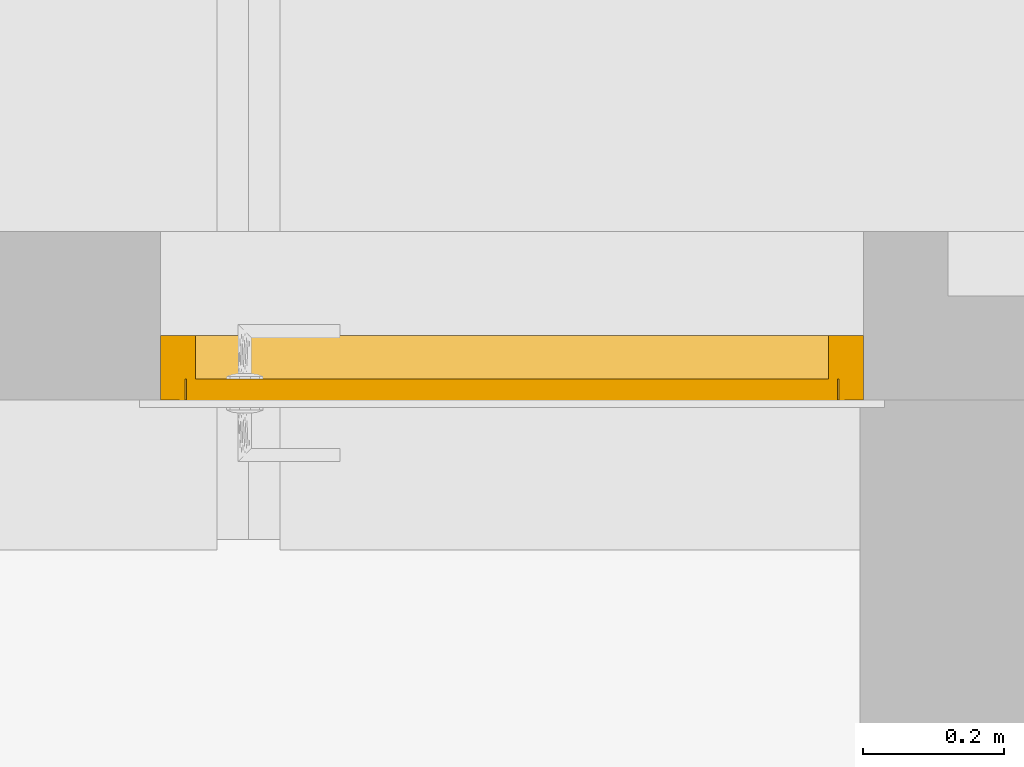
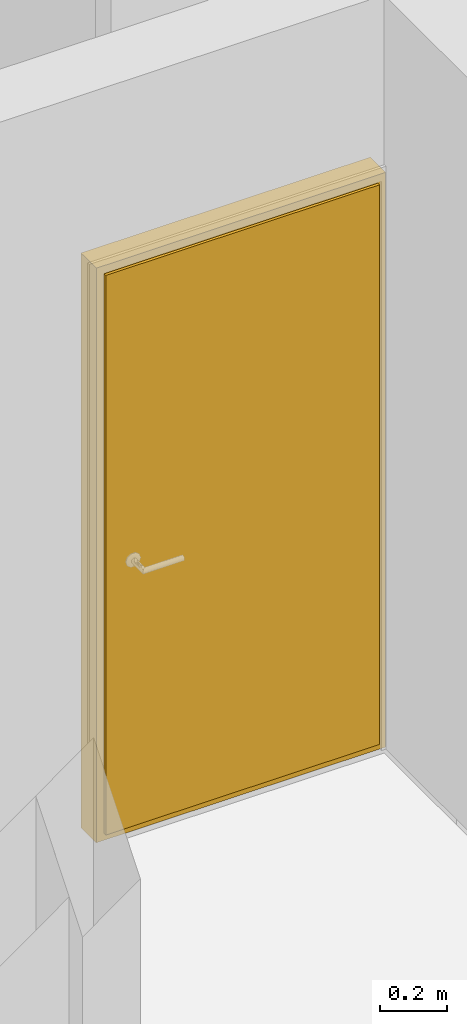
# One storey, part 22 of 57: 1 door.
"""IFC2X3 building model written with IfcOpenShell, lengths in millimetres."""

from ifc_helpers import new_model, entity, si_unit, converted_unit, direction, frame, origin, place, context, subcontext, project, spatial, faceted_brep, source, transform, mapped, material, type_object, type_shapes, element, save


model = new_model("IFC2X3")

# Units and contexts
model_context = context("Model", 3, precision=0.01, world=origin(), true_north=direction((6.123233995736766e-17, 1.0)))
plan_context = context("Plan", 3, precision=0.01, world=origin(), true_north=direction((6.123233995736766e-17, 1.0)))
body_context = subcontext(model_context, "Body", "Model", "MODEL_VIEW")
ifc_project = project(units=[si_unit("LENGTHUNIT", "METRE", prefix="MILLI"), converted_unit("PLANEANGLEUNIT", "DEGREE", entity("IfcPlaneAngleMeasure", 0.017453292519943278), si_unit("PLANEANGLEUNIT", "RADIAN"), dimensions=[0, 0, 0, 0, 0, 0, 0]), si_unit("AREAUNIT", "SQUARE_METRE")], contexts=[model_context, plan_context])

# Site, building, storey
site_placement = place(None, origin())
site = spatial("IfcSite", under=ifc_project, at=site_placement, Name="Default", CompositionType="ELEMENT")
building_placement = place(site_placement, origin())
building = spatial("IfcBuilding", under=site, at=building_placement, CompositionType="ELEMENT")
storey_placement = place(building_placement, frame((0.0, 0.0, 12811.000000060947)))
storey = spatial("IfcBuildingStorey", under=building, at=storey_placement, Name="5K", CompositionType="ELEMENT", Elevation=12811.000000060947)

# Door
ifc_material = material(Name="<Unnamed>")
door_style = type_object("IfcDoorStyle", Name="HR_Generic_Hinged_Single:Default. Manteluks lävepakuga. 1000 x 2100 mm. Right", ConstructionType="NOTDEFINED", OperationType="NOTDEFINED", ParameterTakesPrecedence=False, Sizeable=False, material=ifc_material)
shared_shape = source(origin(), body_context, "Body", "Brep", [
    faceted_brep([(965.0, -1000.0, 20.0), (35.0, -1000.0, 20.0), (35.0, -1030.0, 20.0), (50.0, -1030.0, 20.0), (50.0, -1092.0, 20.0), (950.0, -1092.0, 20.0), (950.0, -1030.0, 20.0), (965.0, -1030.0, 20.0), (35.0, -1000.0, 0.0), (965.0, -1000.0, 0.0), (965.0, -1030.0, 0.0), (950.0, -1030.0, 0.0), (950.0, -1092.0, 0.0), (50.0, -1092.0, 0.0), (50.0, -1030.0, 0.0), (35.0, -1030.0, 0.0)], [[[0, 1, 2, 3, 4, 5, 6, 7]], [[8, 9, 10, 11, 12, 13, 14, 15]], [[1, 0, 9, 8]], [[5, 4, 13, 12]], [[2, 1, 8, 15]], [[0, 7, 10, 9]], [[3, 14, 13, 4]], [[14, 3, 2, 15]], [[6, 11, 10, 7]], [[11, 6, 5, 12]]]),
    faceted_brep([(37.0, -1030.0, 2060.0), (37.0, -1030.0, 25.0), (963.0, -1030.0, 25.0), (963.0, -1030.0, 2060.0), (27.0, -990.0, 25.0), (27.0, -990.0, 2070.0), (973.0, -990.0, 2070.0), (973.0, -990.0, 25.0), (37.0, -1000.0, 2060.0), (37.0, -1000.0, 25.0), (27.0, -1000.0, 25.0), (973.0, -1000.0, 25.0), (963.0, -1000.0, 25.0), (963.0, -1000.0, 2060.0), (27.0, -1000.0, 2070.0), (973.0, -1000.0, 2070.0)], [[[0, 1, 2, 3]], [[4, 5, 6, 7]], [[1, 0, 8, 9]], [[2, 1, 9, 10, 4, 7, 11, 12]], [[3, 2, 12, 13]], [[0, 3, 13, 8]], [[14, 10, 9, 8, 13, 12, 11, 15]], [[6, 5, 14, 15]], [[7, 6, 15, 11]], [[5, 4, 10, 14]]]),
    faceted_brep([(1000.0, -1092.0, 0.0), (950.0, -1092.0, 0.0), (950.0, -1030.0, 0.0), (965.0, -1030.0, 0.0), (965.0, -1000.0, 0.0), (1000.0, -1000.0, 0.0), (1000.0, -1092.0, 2100.0), (0.0, -1092.0, 2100.0), (0.0, -1092.0, 0.0), (50.0, -1092.0, 0.0), (50.0, -1092.0, 2050.0), (950.0, -1092.0, 2050.0), (950.0, -1030.0, 2050.0), (35.0, -1030.0, 2065.0), (965.0, -1030.0, 2065.0), (50.0, -1030.0, 2050.0), (50.0, -1030.0, 0.0), (35.0, -1030.0, 0.0), (965.0, -1000.0, 2065.0), (0.0, -1000.0, 0.0), (0.0, -1000.0, 2100.0), (1000.0, -1000.0, 2100.0), (35.0, -1000.0, 2065.0), (35.0, -1000.0, 0.0)], [[[0, 1, 2, 3, 4, 5]], [[1, 0, 6, 7, 8, 9, 10, 11]], [[1, 11, 12, 2]], [[13, 14, 3, 2, 12, 15, 16, 17]], [[3, 14, 18, 4]], [[19, 20, 21, 5, 4, 18, 22, 23]], [[0, 5, 21, 6]], [[8, 19, 23, 17, 16, 9]], [[19, 8, 7, 20]], [[13, 17, 23, 22]], [[10, 9, 16, 15]], [[7, 6, 21, 20]], [[11, 10, 15, 12]], [[14, 13, 22, 18]]]),
])
type_shapes(door_style, [shared_shape])
door_placement = place(storey_placement, frame((5054.997197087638, 5404.999959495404, 0.0), z_axis=(0.0, 0.0, 1.0), x_axis=(-1.0, 0.0, 0.0)))
element("IfcDoor", 1, at=door_placement, inside=storey, type_object=door_style, material=ifc_material, Name="HR_Generic_Hinged_Single:Default. Manteluks lävepakuga. 1000 x 2100 mm. Right", ObjectType="HR_Generic_Hinged_Single:Default. Manteluks lävepakuga. 1000 x 2100 mm. Right", OverallHeight=2130.000000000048, OverallWidth=1060.0000000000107, context=body_context, shape_type="MappedRepresentation", body=[
    mapped(shared_shape, transform((0.0, 0.0, 0.0), scale=1.0)),
])

save(model, "model.ifc")
